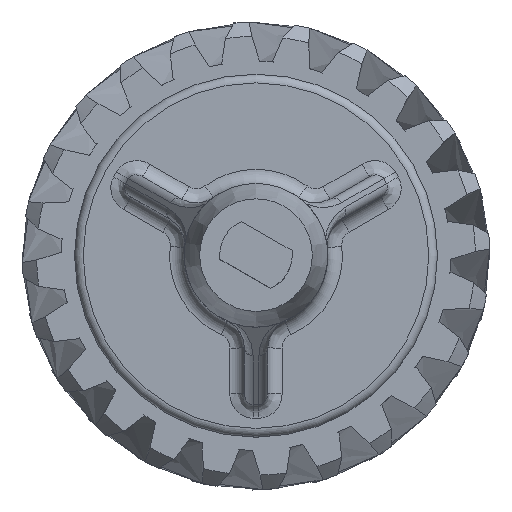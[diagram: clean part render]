
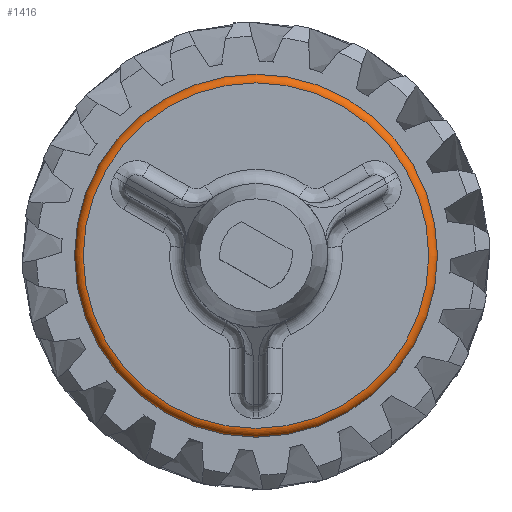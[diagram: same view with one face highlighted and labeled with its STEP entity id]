
A CAD part, top view. The second image highlights one B-rep face of the part: STEP entity #1416.
In plain terms, the highlighted toroidal (fillet/blend) face has major radius 11.9 mm and minor radius 0.6 mm.
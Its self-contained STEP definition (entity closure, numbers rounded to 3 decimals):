
#1416=ADVANCED_FACE('',(#3954,#3956),#3958,.T.);
#3954=FACE_BOUND('',#3955,.T.);
#3955=EDGE_LOOP('',(#6284,#6285));
#3956=FACE_OUTER_BOUND('',#3957,.T.);
#3957=EDGE_LOOP('',(#6286));
#3958=TOROIDAL_SURFACE('',#3959,11.9,0.6);
#3959=AXIS2_PLACEMENT_3D('',#3960,#3961,#3962);
#3960=CARTESIAN_POINT('',(72.37,87.08,30.126));
#3961=DIRECTION('',(0.,0.,1.));
#3962=DIRECTION('',(-0.5,-0.866,0.));
#6284=ORIENTED_EDGE('',*,*,#7354,.T.);
#6285=ORIENTED_EDGE('',*,*,#7355,.T.);
#6286=ORIENTED_EDGE('',*,*,#7353,.T.);
#7353=EDGE_CURVE('',#8529,#8529,#8530,.T.);
#7354=EDGE_CURVE('',#8531,#8532,#8533,.T.);
#7355=EDGE_CURVE('',#8532,#8531,#8534,.T.);
#8529=VERTEX_POINT('',#15612);
#8530=CIRCLE('',#15613,11.9);
#8531=VERTEX_POINT('',#15617);
#8532=VERTEX_POINT('',#15618);
#8533=CIRCLE('',#15619,12.5);
#8534=CIRCLE('',#15623,12.5);
#15612=CARTESIAN_POINT('',(78.32,97.386,30.726));
#15613=AXIS2_PLACEMENT_3D('',#15614,#15615,#15616);
#15614=CARTESIAN_POINT('',(72.37,87.08,30.726));
#15615=DIRECTION('',(0.,0.,-1.));
#15616=DIRECTION('',(0.5,0.866,0.));
#15617=CARTESIAN_POINT('',(83.196,80.83,30.126));
#15618=CARTESIAN_POINT('',(78.62,97.906,30.126));
#15619=AXIS2_PLACEMENT_3D('',#15620,#15621,#15622);
#15620=CARTESIAN_POINT('',(72.37,87.08,30.126));
#15621=DIRECTION('',(0.,0.,1.));
#15622=DIRECTION('',(0.866,-0.5,0.));
#15623=AXIS2_PLACEMENT_3D('',#15624,#15625,#15626);
#15624=CARTESIAN_POINT('',(72.37,87.08,30.126));
#15625=DIRECTION('',(0.,0.,1.));
#15626=DIRECTION('',(0.5,0.866,0.));
